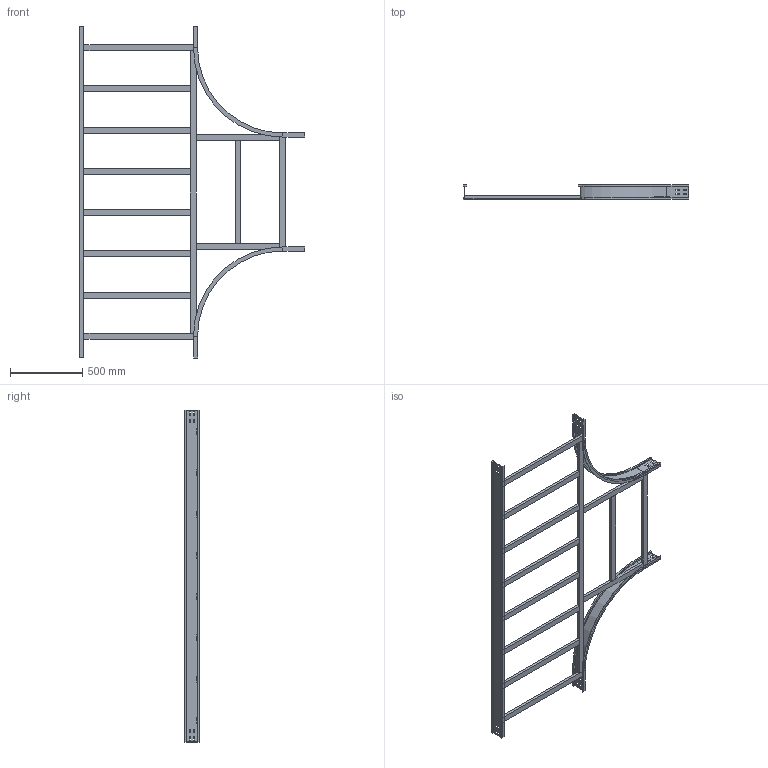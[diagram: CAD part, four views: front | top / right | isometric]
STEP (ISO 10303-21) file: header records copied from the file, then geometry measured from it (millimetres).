
FILE_DESCRIPTION (( 'STEP AP214' ), '1' );
FILE_NAME ('15S6D800.step', '2025-02-21T16:13:17', ( '' ), ( '' ), 'SwSTEP 2.0', 'SolidWorks 2023', '' );
FILE_SCHEMA (( 'AUTOMOTIVE_DESIGN' ));
Length unit declared in the file: millimetre
Products named in the file (8): TRAVERSINO_800; TRAVERSINO_COPPIA_800; TRAVERSINO_LONG._R600+800; LONGH.RETT_H100_R600+800; TRAVERSINO_VERT_R600; LONGH.INTERNO 90°_H100_R600; TRAVERSINO_INTERMEDIO_R600+800; 15S6D800
Assembly tree (16 placements, depth 2):
  15S6D800
    LONGH.INTERNO 90°_H100_R600  x2
    LONGH.RETT_H100_R600+800
    TRAVERSINO_800  x3
    TRAVERSINO_LONG._R600+800
    TRAVERSINO_INTERMEDIO_R600+800  x6
    TRAVERSINO_VERT_R600  x2
    TRAVERSINO_COPPIA_800
Bounding box: 1559 x 100 x 2300 mm (x, y, z)
Volume: 11252491 mm3; surface area: 2741407 mm2
Topology: 16 solids, 16 shells, 264 faces, 648 edges, 416 vertices
Faces by surface type: plane 252, cylinder 12
Entity records: 4685 total; most frequent: CARTESIAN_POINT 777, ORIENTED_EDGE 744, DIRECTION 714, EDGE_CURVE 372, VECTOR 360, LINE 360, VERTEX_POINT 240, EDGE_LOOP 178
